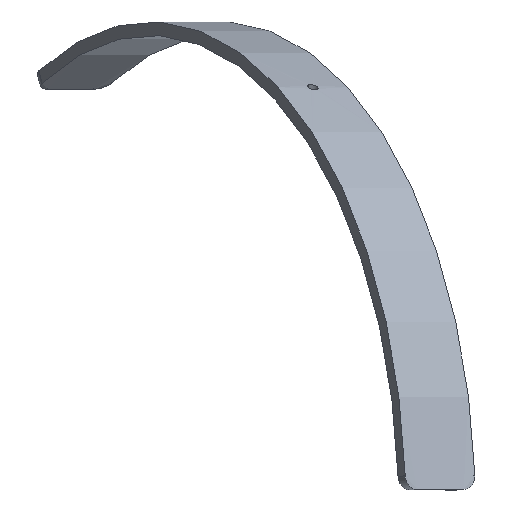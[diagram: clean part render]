
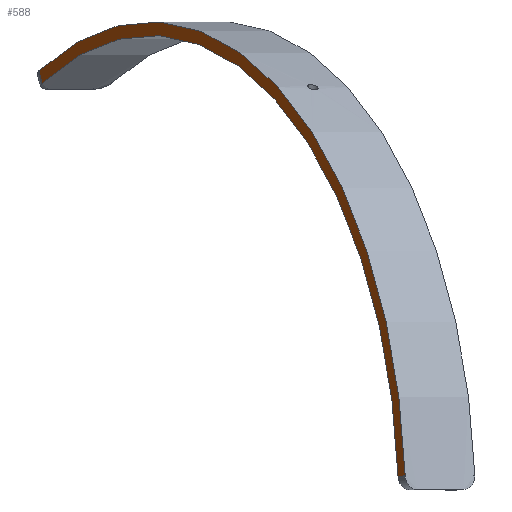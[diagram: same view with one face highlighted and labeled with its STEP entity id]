
A CAD part, front view. The second image highlights one B-rep face of the part: STEP entity #588.
In plain terms, the highlighted planar face has unit normal (-0.853, -0.522, 0).
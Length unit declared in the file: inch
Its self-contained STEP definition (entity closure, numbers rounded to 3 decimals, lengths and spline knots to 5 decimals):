
#4 = AXIS2_PLACEMENT_3D ( 'NONE', #533, #302, #75 ) ;
#5 = DIRECTION ( 'NONE',  ( 0.242, -0.394, -0.887 ) ) ;
#10 = EDGE_CURVE ( 'NONE', #383, #38, #752, .T. ) ;
#33 = EDGE_CURVE ( 'NONE', #496, #383, #39, .T. ) ;
#38 = VERTEX_POINT ( 'NONE', #178 ) ;
#39 = CIRCLE ( 'NONE', #399, 35.88 ) ;
#54 = VECTOR ( 'NONE', #557, 39.37008 ) ;
#75 = DIRECTION ( 'NONE',  ( 0.522, -0.853, 0. ) ) ;
#124 = CARTESIAN_POINT ( 'NONE',  ( 78.12656, -133.2326, 2.49846 ) ) ;
#144 = ORIENTED_EDGE ( 'NONE', *, *, #735, .F. ) ;
#165 = VECTOR ( 'NONE', #5, 39.37008 ) ;
#172 = DIRECTION ( 'NONE',  ( 0.853, 0.522, 0. ) ) ;
#176 = CARTESIAN_POINT ( 'NONE',  ( 51.74839, -90.18734, 32.26553 ) ) ;
#178 = CARTESIAN_POINT ( 'NONE',  ( 51.99004, -90.58167, 31.37845 ) ) ;
#234 = EDGE_CURVE ( 'NONE', #337, #496, #682, .T. ) ;
#298 = CIRCLE ( 'NONE', #4, 34.88 ) ;
#302 = DIRECTION ( 'NONE',  ( -0.853, -0.522, 0. ) ) ;
#328 = CARTESIAN_POINT ( 'NONE',  ( 59.92615, -103.53224, 0.99907 ) ) ;
#334 = AXIS2_PLACEMENT_3D ( 'NONE', #344, #172, #347 ) ;
#337 = VERTEX_POINT ( 'NONE', #124 ) ;
#344 = CARTESIAN_POINT ( 'NONE',  ( 59.94862, -103.56891, 0. ) ) ;
#346 = CARTESIAN_POINT ( 'NONE',  ( 59.94862, -103.56891, 0. ) ) ;
#347 = DIRECTION ( 'NONE',  ( -0.522, 0.853, 0. ) ) ;
#383 = VERTEX_POINT ( 'NONE', #176 ) ;
#399 = AXIS2_PLACEMENT_3D ( 'NONE', #346, #578, #519 ) ;
#450 = EDGE_LOOP ( 'NONE', ( #667, #518, #144, #617 ) ) ;
#496 = VERTEX_POINT ( 'NONE', #660 ) ;
#518 = ORIENTED_EDGE ( 'NONE', *, *, #10, .T. ) ;
#519 = DIRECTION ( 'NONE',  ( 0.522, -0.853, 0. ) ) ;
#533 = CARTESIAN_POINT ( 'NONE',  ( 59.94862, -103.56891, 0. ) ) ;
#557 = DIRECTION ( 'NONE',  ( 0.522, -0.852, 0.043 ) ) ;
#567 = CARTESIAN_POINT ( 'NONE',  ( 60.41194, -104.32496, 0.4623 ) ) ;
#568 = PLANE ( 'NONE',  #334 ) ;
#578 = DIRECTION ( 'NONE',  ( -0.853, -0.522, 0. ) ) ;
#588 = ADVANCED_FACE ( 'NONE', ( #639 ), #568, .F. ) ;
#617 = ORIENTED_EDGE ( 'NONE', *, *, #234, .T. ) ;
#639 = FACE_OUTER_BOUND ( 'NONE', #450, .T. ) ;
#660 = CARTESIAN_POINT ( 'NONE',  ( 78.64878, -134.08479, 2.54148 ) ) ;
#667 = ORIENTED_EDGE ( 'NONE', *, *, #33, .T. ) ;
#682 = LINE ( 'NONE', #328, #54 ) ;
#735 = EDGE_CURVE ( 'NONE', #337, #38, #298, .T. ) ;
#752 = LINE ( 'NONE', #567, #165 ) ;
